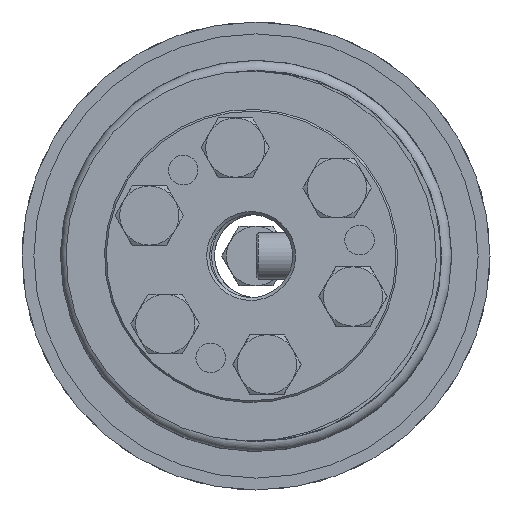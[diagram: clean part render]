
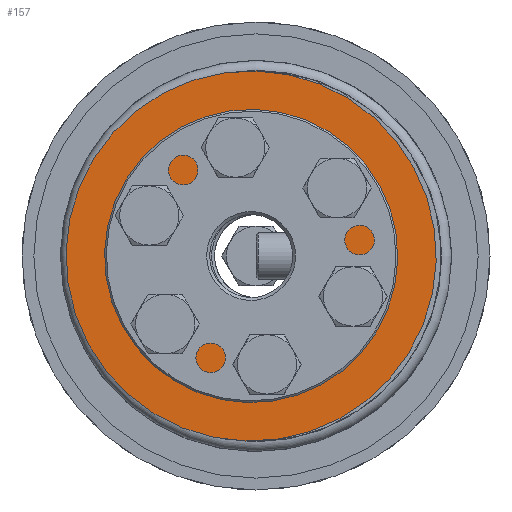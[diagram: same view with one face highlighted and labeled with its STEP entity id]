
A CAD part, left-side view. The second image highlights one B-rep face of the part: STEP entity #157.
In plain terms, the highlighted planar face has unit normal (-1, 0, 0) as drawn and (1, 0, 0) by its records, which use the part's own axes.
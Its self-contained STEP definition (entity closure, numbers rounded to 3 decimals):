
#157 = ADVANCED_FACE( 'NONE', ( #262, #263, #264, #265, #266, #267, #268, #269 ), #270, .F. );
#262 = FACE_OUTER_BOUND( '', #400, .T. );
#263 = FACE_BOUND( '', #401, .T. );
#264 = FACE_BOUND( '', #402, .T. );
#265 = FACE_BOUND( '', #403, .T. );
#266 = FACE_BOUND( '', #404, .T. );
#267 = FACE_BOUND( '', #405, .T. );
#268 = FACE_BOUND( '', #406, .T. );
#269 = FACE_BOUND( '', #407, .T. );
#270 = PLANE( '', #408 );
#400 = EDGE_LOOP( '', ( #686 ) );
#401 = EDGE_LOOP( '', ( #687 ) );
#402 = EDGE_LOOP( '', ( #688 ) );
#403 = EDGE_LOOP( '', ( #689 ) );
#404 = EDGE_LOOP( '', ( #690 ) );
#405 = EDGE_LOOP( '', ( #691 ) );
#406 = EDGE_LOOP( '', ( #692 ) );
#407 = EDGE_LOOP( '', ( #693 ) );
#408 = AXIS2_PLACEMENT_3D( '', #694, #695, #696 );
#686 = ORIENTED_EDGE( '', *, *, #1216, .F. );
#687 = ORIENTED_EDGE( '', *, *, #1210, .F. );
#688 = ORIENTED_EDGE( '', *, *, #1207, .T. );
#689 = ORIENTED_EDGE( '', *, *, #1219, .F. );
#690 = ORIENTED_EDGE( '', *, *, #1220, .F. );
#691 = ORIENTED_EDGE( '', *, *, #1221, .F. );
#692 = ORIENTED_EDGE( '', *, *, #1222, .F. );
#693 = ORIENTED_EDGE( '', *, *, #1223, .F. );
#694 = CARTESIAN_POINT( '', ( 16., 31.25, 0. ) );
#695 = DIRECTION( '', ( -1., 0., 0. ) );
#696 = DIRECTION( '', ( 0., 0., 1. ) );
#1207 = EDGE_CURVE( 'NONE', #1705, #1705, #1706, .T. );
#1210 = EDGE_CURVE( 'NONE', #1710, #1710, #1711, .T. );
#1216 = EDGE_CURVE( 'NONE', #1720, #1720, #1721, .T. );
#1219 = EDGE_CURVE( 'NONE', #1724, #1724, #1725, .T. );
#1220 = EDGE_CURVE( 'NONE', #1726, #1726, #1727, .T. );
#1221 = EDGE_CURVE( 'NONE', #1728, #1728, #1729, .T. );
#1222 = EDGE_CURVE( 'NONE', #1730, #1730, #1731, .T. );
#1223 = EDGE_CURVE( 'NONE', #1732, #1732, #1733, .T. );
#1705 = VERTEX_POINT( '', #2678 );
#1706 = CIRCLE( '', #2679, 15.1 );
#1710 = VERTEX_POINT( '', #2683 );
#1711 = CIRCLE( '', #2684, 3. );
#1720 = VERTEX_POINT( '', #2693 );
#1721 = CIRCLE( '', #2694, 31.25 );
#1724 = VERTEX_POINT( '', #2697 );
#1725 = CIRCLE( '', #2698, 3. );
#1726 = VERTEX_POINT( '', #2699 );
#1727 = CIRCLE( '', #2700, 3. );
#1728 = VERTEX_POINT( '', #2701 );
#1729 = CIRCLE( '', #2702, 3. );
#1730 = VERTEX_POINT( '', #2703 );
#1731 = CIRCLE( '', #2704, 3. );
#1732 = VERTEX_POINT( '', #2705 );
#1733 = CIRCLE( '', #2706, 3. );
#2678 = CARTESIAN_POINT( '', ( 16., 0., 15.1 ) );
#2679 = AXIS2_PLACEMENT_3D( '', #2953, #2954, #2955 );
#2683 = CARTESIAN_POINT( '', ( 16., -9.25, 13.021 ) );
#2684 = AXIS2_PLACEMENT_3D( '', #2959, #2960, #2961 );
#2693 = CARTESIAN_POINT( '', ( 16., 0., 31.25 ) );
#2694 = AXIS2_PLACEMENT_3D( '', #2971, #2972, #2973 );
#2697 = CARTESIAN_POINT( '', ( 16., 18.5, -3. ) );
#2698 = AXIS2_PLACEMENT_3D( '', #2974, #2975, #2976 );
#2699 = CARTESIAN_POINT( '', ( 16., 9.25, -19.021 ) );
#2700 = AXIS2_PLACEMENT_3D( '', #2977, #2978, #2979 );
#2701 = CARTESIAN_POINT( '', ( 16., -9.25, -19.021 ) );
#2702 = AXIS2_PLACEMENT_3D( '', #2980, #2981, #2982 );
#2703 = CARTESIAN_POINT( '', ( 16., -18.5, -3. ) );
#2704 = AXIS2_PLACEMENT_3D( '', #2983, #2984, #2985 );
#2705 = CARTESIAN_POINT( '', ( 16., 9.25, 13.021 ) );
#2706 = AXIS2_PLACEMENT_3D( '', #2986, #2987, #2988 );
#2953 = CARTESIAN_POINT( '', ( 16., 0., 0. ) );
#2954 = DIRECTION( '', ( -1., 0., 0. ) );
#2955 = DIRECTION( '', ( 0., 0., 1. ) );
#2959 = CARTESIAN_POINT( '', ( 16., -9.25, 16.021 ) );
#2960 = DIRECTION( '', ( 1., 0., 0. ) );
#2961 = DIRECTION( '', ( 0., 0., -1. ) );
#2971 = CARTESIAN_POINT( '', ( 16., 0., 0. ) );
#2972 = DIRECTION( '', ( -1., 0., 0. ) );
#2973 = DIRECTION( '', ( 0., 0., 1. ) );
#2974 = CARTESIAN_POINT( '', ( 16., 18.5, 0. ) );
#2975 = DIRECTION( '', ( 1., 0., 0. ) );
#2976 = DIRECTION( '', ( 0., 0., -1. ) );
#2977 = CARTESIAN_POINT( '', ( 16., 9.25, -16.021 ) );
#2978 = DIRECTION( '', ( 1., 0., 0. ) );
#2979 = DIRECTION( '', ( 0., 0., -1. ) );
#2980 = CARTESIAN_POINT( '', ( 16., -9.25, -16.021 ) );
#2981 = DIRECTION( '', ( 1., 0., 0. ) );
#2982 = DIRECTION( '', ( 0., 0., -1. ) );
#2983 = CARTESIAN_POINT( '', ( 16., -18.5, 0. ) );
#2984 = DIRECTION( '', ( 1., 0., 0. ) );
#2985 = DIRECTION( '', ( 0., 0., -1. ) );
#2986 = CARTESIAN_POINT( '', ( 16., 9.25, 16.021 ) );
#2987 = DIRECTION( '', ( 1., 0., 0. ) );
#2988 = DIRECTION( '', ( 0., 0., -1. ) );
